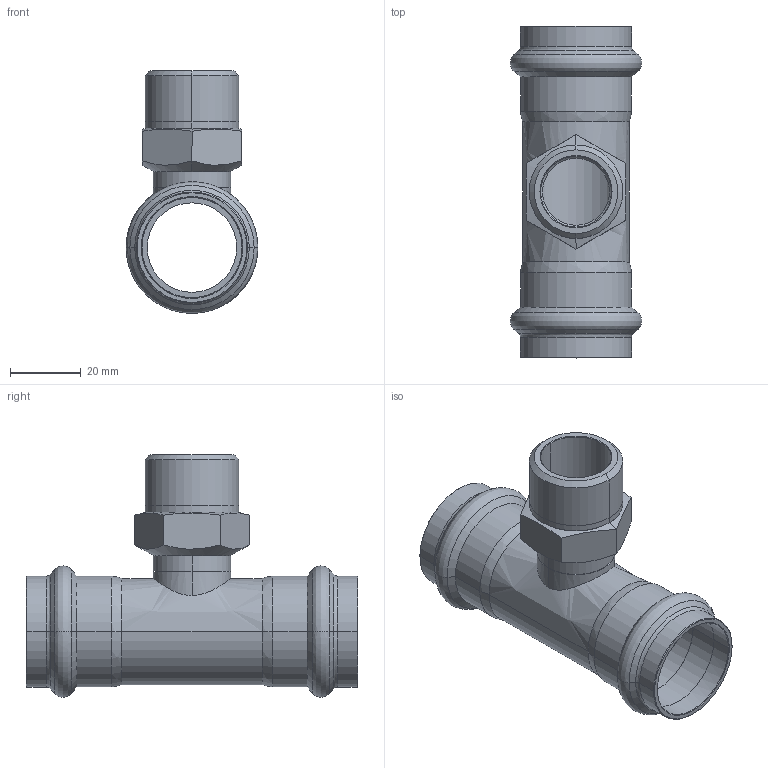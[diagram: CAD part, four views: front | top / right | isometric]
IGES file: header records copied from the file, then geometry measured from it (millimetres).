
Start section: Elysium IGES Interface
Global section: file name: C:\Users\Wallenburg\Desktop\3d modellen sudo\S-Pr VP\SP6132GV\6132GVW283428.igs; native system: CoCreate Modeling 17.00A  17-Jun-2010; preprocessor: CoCreate IGES_3D V2.2; author: Unknown; organization: Unknown; date: 20130123.162004; units: millimetre
Bounding box: 37.2 x 93.81 x 68.59 mm (x, y, z)
Volume: 24526.1 mm3; surface area: 23842.3 mm2
Topology: 1 solids, 1 shells, 114 faces, 250 edges, 144 vertices
Faces by surface type: bspline 114
